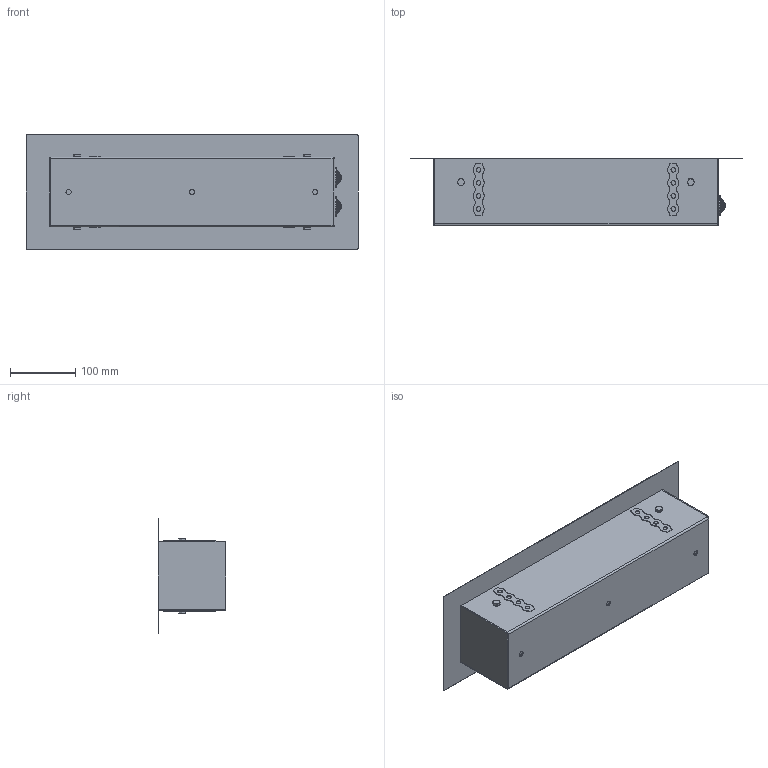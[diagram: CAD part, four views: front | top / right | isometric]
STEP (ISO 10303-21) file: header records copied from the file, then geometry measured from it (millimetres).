
FILE_DESCRIPTION (( 'STEP AP203' ), '1' );
FILE_NAME ('3D - HSW430 Außenkontur.STEP', '2019-07-31T12:37:38', ( '' ), ( '' ), 'SwSTEP 2.0', 'SolidWorks 2013', '' );
FILE_SCHEMA (( 'CONFIG_CONTROL_DESIGN' ));
Length unit declared in the file: millimetre
Products named in the file (1): 3D - HSW430 Außenkontur
Bounding box: 510 x 104 x 177 mm (x, y, z)
Surface area: 353439.6 mm2 (no closed solid volume)
Topology: 0 solids, 21 shells, 350 faces, 1010 edges, 682 vertices
Faces by surface type: cylinder 207, plane 71, torus 32, cone 28, bspline 12
Entity records: 12784 total; most frequent: CARTESIAN_POINT 3530, DIRECTION 2093, ORIENTED_EDGE 1633, EDGE_CURVE 1010, AXIS2_PLACEMENT_3D 855, VERTEX_POINT 682, CIRCLE 516, EDGE_LOOP 393
